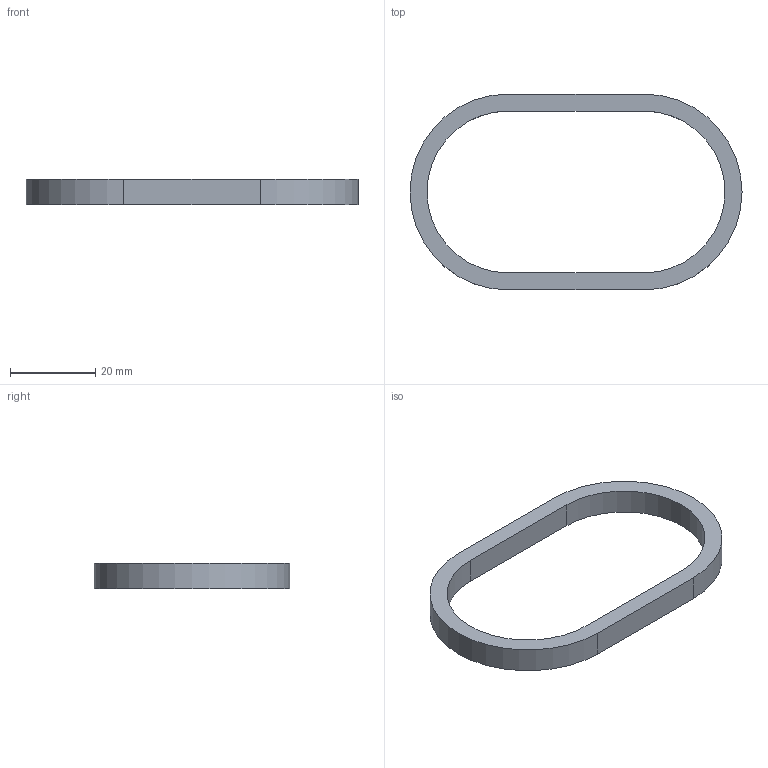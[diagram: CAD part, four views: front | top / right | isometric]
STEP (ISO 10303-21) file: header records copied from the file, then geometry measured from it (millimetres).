
FILE_DESCRIPTION(('Open CASCADE Model'),'2;1');
FILE_NAME('Open CASCADE Shape Model','2026-09-01T17:09:25',('Author'),( 'Open CASCADE'),'Open CASCADE STEP processor 7.9','Open CASCADE 7.9' ,'Unknown');
FILE_SCHEMA(('AUTOMOTIVE_DESIGN { 1 0 10303 214 1 1 1 1 }'));
Length unit declared in the file: millimetre
Products named in the file (1): Open CASCADE STEP translator 7.9 5
Bounding box: 78 x 46 x 6 mm (x, y, z)
Volume: 4702.7 mm3; surface area: 3918.9 mm2
Topology: 1 solids, 1 shells, 10 faces, 24 edges, 16 vertices
Faces by surface type: plane 6, cylinder 4
Entity records: 627 total; most frequent: CARTESIAN_POINT 139, DIRECTION 87, ORIENTED_EDGE 48, PCURVE 48, DEFINITIONAL_REPRESENTATION 48, LINE 46, VECTOR 46, EDGE_CURVE 24
